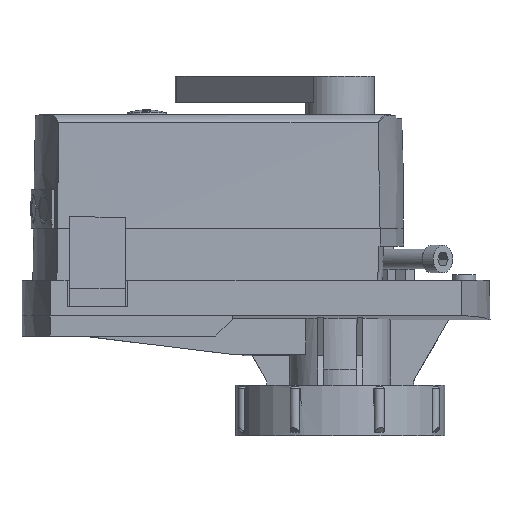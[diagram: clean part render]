
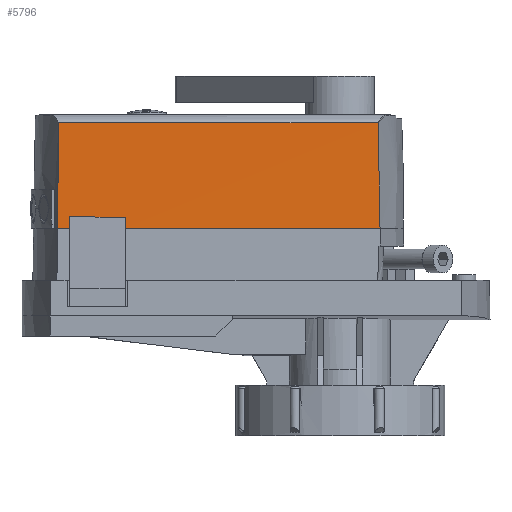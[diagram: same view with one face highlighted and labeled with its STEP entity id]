
A CAD part, front view. The second image highlights one B-rep face of the part: STEP entity #5796.
In plain terms, the highlighted planar face has unit normal (0, -1, 0.018).
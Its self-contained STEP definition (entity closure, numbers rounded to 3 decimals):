
#3438=B_SPLINE_CURVE_WITH_KNOTS('',3,(#26865,#26866,#26867,#26868,#26869,
#26870,#26871),.UNSPECIFIED.,.F.,.F.,(4,3,4),(0.,0.014,1.),
 .UNSPECIFIED.);
#3439=B_SPLINE_CURVE_WITH_KNOTS('',3,(#26872,#26873,#26874,#26875,#26876,
#26877,#26878),.UNSPECIFIED.,.F.,.F.,(4,3,4),(0.,0.014,1.),
 .UNSPECIFIED.);
#3568=LINE('',#19199,#4326);
#3575=LINE('',#19213,#4333);
#3581=LINE('',#19238,#4339);
#4295=LINE('',#26862,#5079);
#4326=VECTOR('',#15942,1.);
#4333=VECTOR('',#15951,1.);
#4339=VECTOR('',#15971,1.);
#5079=VECTOR('',#19069,1.);
#5796=ADVANCED_FACE('',(#6749),#6082,.T.);
#6082=PLANE('',#15883);
#6749=FACE_OUTER_BOUND('',#7535,.T.);
#7535=EDGE_LOOP('',(#10988,#10989,#10990,#10991,#10992,#10993));
#10988=ORIENTED_EDGE('',*,*,#14009,.T.);
#10989=ORIENTED_EDGE('',*,*,#14010,.F.);
#10990=ORIENTED_EDGE('',*,*,#12292,.F.);
#10991=ORIENTED_EDGE('',*,*,#12285,.F.);
#10992=ORIENTED_EDGE('',*,*,#12304,.F.);
#10993=ORIENTED_EDGE('',*,*,#14011,.T.);
#11148=VERTEX_POINT('',#19197);
#11150=VERTEX_POINT('',#19200);
#11156=VERTEX_POINT('',#19214);
#11167=VERTEX_POINT('',#19237);
#12248=VERTEX_POINT('',#26863);
#12249=VERTEX_POINT('',#26864);
#12285=EDGE_CURVE('',#11148,#11150,#3568,.T.);
#12292=EDGE_CURVE('',#11150,#11156,#3575,.T.);
#12304=EDGE_CURVE('',#11167,#11148,#3581,.T.);
#14009=EDGE_CURVE('',#12248,#12249,#4295,.T.);
#14010=EDGE_CURVE('',#11156,#12249,#3438,.T.);
#14011=EDGE_CURVE('',#11167,#12248,#3439,.T.);
#15883=AXIS2_PLACEMENT_3D('',#26879,#19070,#19071);
#15942=DIRECTION('',(-1.,0.,0.));
#15951=DIRECTION('',(-1.,0.,0.));
#15971=DIRECTION('',(-1.,0.,0.));
#19069=DIRECTION('',(-1.,0.,0.));
#19070=DIRECTION('',(0.,-1.,0.017));
#19071=DIRECTION('',(0.,0.017,1.));
#19197=CARTESIAN_POINT('',(-65.7,-33.635,56.5));
#19199=CARTESIAN_POINT('',(-41.375,-33.634,56.5));
#19200=CARTESIAN_POINT('',(-82.7,-33.635,56.5));
#19213=CARTESIAN_POINT('',(-41.375,-33.634,56.5));
#19214=CARTESIAN_POINT('',(-86.427,-33.634,56.5));
#19237=CARTESIAN_POINT('',(12.22,-33.634,56.5));
#19238=CARTESIAN_POINT('',(-41.375,-33.634,56.5));
#26862=CARTESIAN_POINT('',(-90.,-33.07,88.856));
#26863=CARTESIAN_POINT('',(11.639,-32.778,88.714));
#26864=CARTESIAN_POINT('',(-86.066,-33.07,88.856));
#26865=CARTESIAN_POINT('',(-86.427,-33.634,56.5));
#26866=CARTESIAN_POINT('',(-86.425,-33.632,56.65));
#26867=CARTESIAN_POINT('',(-86.424,-33.629,56.8));
#26868=CARTESIAN_POINT('',(-86.422,-33.626,56.95));
#26869=CARTESIAN_POINT('',(-86.304,-33.441,67.585));
#26870=CARTESIAN_POINT('',(-86.185,-33.255,78.221));
#26871=CARTESIAN_POINT('',(-86.066,-33.07,88.856));
#26872=CARTESIAN_POINT('',(12.22,-33.634,56.5));
#26873=CARTESIAN_POINT('',(12.219,-33.632,56.65));
#26874=CARTESIAN_POINT('',(12.217,-33.629,56.8));
#26875=CARTESIAN_POINT('',(12.215,-33.626,56.95));
#26876=CARTESIAN_POINT('',(12.097,-33.442,67.54));
#26877=CARTESIAN_POINT('',(11.979,-33.257,78.131));
#26878=CARTESIAN_POINT('',(11.86,-33.072,88.721));
#26879=CARTESIAN_POINT('',(-41.375,-34.,35.55));
